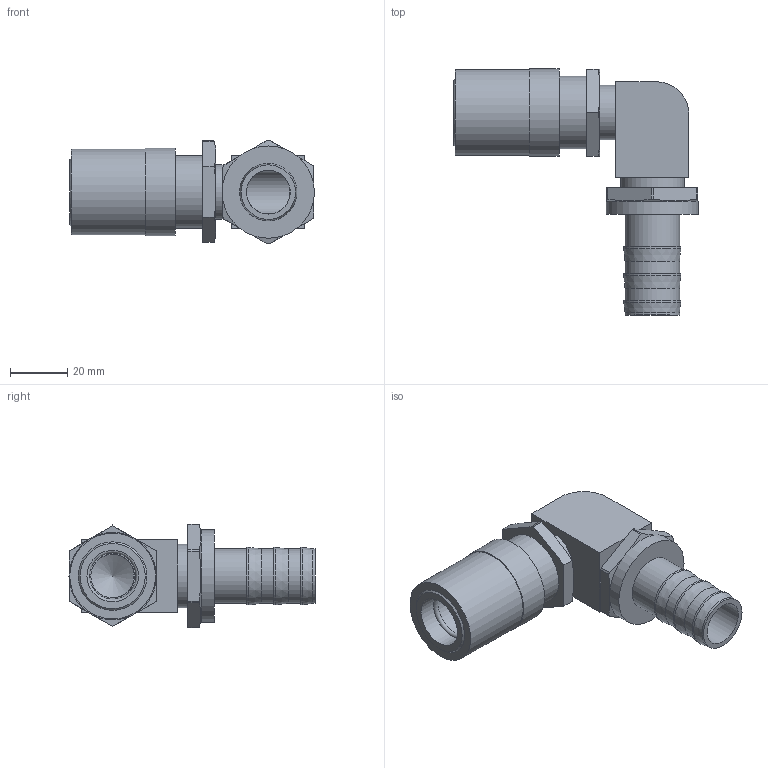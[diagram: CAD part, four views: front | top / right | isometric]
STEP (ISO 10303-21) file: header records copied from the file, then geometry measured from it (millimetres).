
FILE_DESCRIPTION(/* description */ ('STEP AP214'),/* implementation_level */ '2;1');
FILE_NAME(/* name */ 'JSL0516',/* time_stamp */ '2024-12-19T09:04:28+01:00',/* author */ ('License CC BY-ND 4.0'),/* organization */ ('CADENAS'),/* preprocessor_version */ 'ST-DEVELOPER v19.3',/* originating_system */ 'PARTsolutions',/* authorisation */ ' ');
FILE_SCHEMA (('AUTOMOTIVE_DESIGN {1 0 10303 214 3 1 1}'));
Length unit declared in the file: inch
Products named in the file (1): JSL0516
Bounding box: 85.59 x 86.02 x 36.35 mm (x, y, z)
Volume: 49226.3 mm3; surface area: 23229 mm2
Topology: 1 solids, 1 shells, 82 faces, 183 edges, 117 vertices
Faces by surface type: plane 37, cylinder 27, cone 17, torus 1
Full cylindrical faces by diameter (mm): 15.24 x1, 15.342 x1, 17.983 x2, 19.05 x6, 20.066 x3, 22.225 x1, 25.4 x1, 29.972 x1, 30.571 x1, 32.258 x1
Entity records: 2199 total; most frequent: CARTESIAN_POINT 473, DIRECTION 354, ORIENTED_EDGE 306, EDGE_CURVE 153, AXIS2_PLACEMENT_3D 149, FACE_BOUND 122, EDGE_LOOP 121, VERTEX_POINT 113
